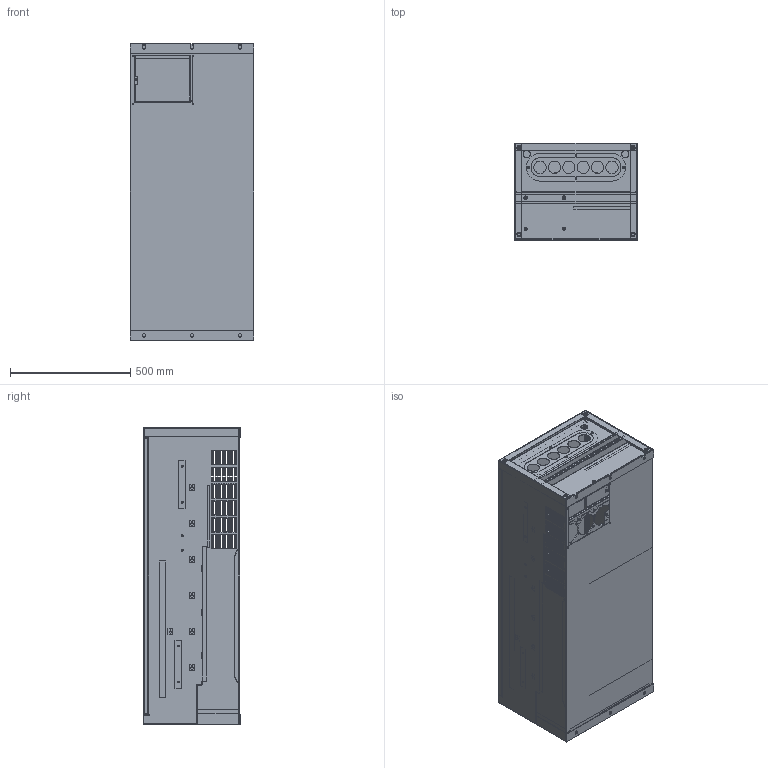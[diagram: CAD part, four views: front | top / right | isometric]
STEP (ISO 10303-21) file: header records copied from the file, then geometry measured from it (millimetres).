
FILE_DESCRIPTION (( 'STEP AP214' ), '1' );
FILE_NAME ('ﾂ-220ﾊ-ﾍ200ﾊ-380-D-0; ﾂ-ﾍ220ﾊ-380-D-0; B-250K-380-D-0.STEP', '2022-06-04T08:40:38', ( '' ), ( '' ), 'SwSTEP 2.0', 'SolidWorks 2018', '' );
FILE_SCHEMA (( 'AUTOMOTIVE_DESIGN' ));
Length unit declared in the file: millimetre
Products named in the file (66): E180-018-305_3___ _____________ _____________^E180-018-305_ASM_3_E102-200-302_ASM_E102-200-201_ASM_OptiCor ﾂ-220ﾊ-ﾍ200ﾊ-380-D-0-0; OptiCor ﾂ-ﾍ220ﾊ-380-D-0-0; OptiCor B-250K-380-D-0-0(2)_ﾂ-220~; S-M5-1_1___ _____________ _____________^E102-200-310_ASM_OptiCor ﾂ-220ﾊ-ﾍ200ﾊ-380-D-0-0; OptiCor ﾂ-ﾍ220ﾊ-380-D-0-0; OptiCor B-250K-380-D-0-0(2)_ﾂ-220ﾊ-ﾍ200ﾊ-380-D-0; ﾂ-ﾍ220ﾊ-380-D-0; B-250K-~; E102-200-307___ _____________ _____________^E102-200-307_ASM_E102-200-201_ASM_OptiCor ﾂ-220ﾊ-ﾍ200ﾊ-380-D-0-0; OptiCor ﾂ-ﾍ220ﾊ-380-D-0-0; OptiCor B-250K-380-D-0-0(2)_ﾂ-220ﾊ-ﾍ200ﾊ-380-D-0; ﾂ-ﾍ2~; E102-200-201_ASM^OptiCor ﾂ-220ﾊ-ﾍ200ﾊ-380-D-0-0; OptiCor ﾂ-ﾍ220ﾊ-380-D-0-0; OptiCor B-250K-380-D-0-0(2)_ﾂ-220ﾊ-ﾍ200ﾊ-380-D-0; ﾂ-ﾍ220ﾊ-380-D-0; B-250K-380-D-0; E102-200-310___ _____________ _____________^E102-200-310_ASM_OptiCor ﾂ-220ﾊ-ﾍ200ﾊ-380-D-0-0; OptiCor ﾂ-ﾍ220ﾊ-380-D-0-0; OptiCor B-250K-380-D-0-0(2)_ﾂ-220ﾊ-ﾍ200ﾊ-380-D-0; ﾂ-ﾍ220ﾊ-380-D-0; B-2~; E102-200-306_ASM^E102-200-201_ASM_OptiCor ﾂ-220ﾊ-ﾍ200ﾊ-380-D-0-0; OptiCor ﾂ-ﾍ220ﾊ-380-D-0-0; OptiCor B-250K-380-D-0-0(2)_ﾂ-220ﾊ-ﾍ200ﾊ-380-D-0; ﾂ-ﾍ220ﾊ-380-D-0; B-250K-380-D-0; E102-200-314___ _____________ _____________^E102-200-201_ASM_OptiCor ﾂ-220ﾊ-ﾍ200ﾊ-380-D-0-0; OptiCor ﾂ-ﾍ220ﾊ-380-D-0-0; OptiCor B-250K-380-D-0-0(2)_ﾂ-220ﾊ-ﾍ200ﾊ-380-D-0; ﾂ-ﾍ220ﾊ-380-D-0; B-2~; ﾂ-220ﾊ-ﾍ200ﾊ-380-D-0; ﾂ-ﾍ220ﾊ-380-D-0; B-250K-380-D-0; E102-200-318_ASM^OptiCor ﾂ-220ﾊ-ﾍ200ﾊ-380-D-0-0; OptiCor ﾂ-ﾍ220ﾊ-380-D-0-0; OptiCor B-250K-380-D-0-0(2)_ﾂ-220ﾊ-ﾍ200ﾊ-380-D-0; ﾂ-ﾍ220ﾊ-380-D-0; B-250K-380-D-0; S-M5-2___ _____________ _____________^E102-200-306_ASM_E102-200-201_ASM_OptiCor ﾂ-220ﾊ-ﾍ200ﾊ-380-D-0-0; OptiCor ﾂ-ﾍ220ﾊ-380-D-0-0; OptiCor B-250K-380-D-0-0(2)_ﾂ-220ﾊ-ﾍ200ﾊ-380-D-0; ﾂ-ﾍ220ﾊ-3~; E102-200-309___ _____________ _____________^E102-200-201_ASM_OptiCor ﾂ-220ﾊ-ﾍ200ﾊ-380-D-0-0; OptiCor ﾂ-ﾍ220ﾊ-380-D-0-0; OptiCor B-250K-380-D-0-0(2)_ﾂ-220ﾊ-ﾍ200ﾊ-380-D-0; ﾂ-ﾍ220ﾊ-380-D-0; B-2~; S-M4-1_4___ _____________ _____________^E102-200-318_ASM_OptiCor ﾂ-220ﾊ-ﾍ200ﾊ-380-D-0-0; OptiCor ﾂ-ﾍ220ﾊ-380-D-0-0; OptiCor B-250K-380-D-0-0(2)_ﾂ-220ﾊ-ﾍ200ﾊ-380-D-0; ﾂ-ﾍ220ﾊ-380-D-0; B-250K-~; E102-200-306___ _____________ _____________^E102-200-306_ASM_E102-200-201_ASM_OptiCor ﾂ-220ﾊ-ﾍ200ﾊ-380-D-0-0; OptiCor ﾂ-ﾍ220ﾊ-380-D-0-0; OptiCor B-250K-380-D-0-0(2)_ﾂ-220ﾊ-ﾍ200ﾊ-380-D-0; ﾂ-ﾍ~; E102-200-308___ _____________ _____________^E102-200-201_ASM_OptiCor ﾂ-220ﾊ-ﾍ200ﾊ-380-D-0-0; OptiCor ﾂ-ﾍ220ﾊ-380-D-0-0; OptiCor B-250K-380-D-0-0(2)_ﾂ-220ﾊ-ﾍ200ﾊ-380-D-0; ﾂ-ﾍ220ﾊ-380-D-0; B-2~; E102-200-318___ _____________ _____________^E102-200-318_ASM_OptiCor ﾂ-220ﾊ-ﾍ200ﾊ-380-D-0-0; OptiCor ﾂ-ﾍ220ﾊ-380-D-0-0; OptiCor B-250K-380-D-0-0(2)_ﾂ-220ﾊ-ﾍ200ﾊ-380-D-0; ﾂ-ﾍ220ﾊ-380-D-0; B-2~; E102-200-305_ASM^E102-200-201_ASM_OptiCor ﾂ-220ﾊ-ﾍ200ﾊ-380-D-0-0; OptiCor ﾂ-ﾍ220ﾊ-380-D-0-0; OptiCor B-250K-380-D-0-0(2)_ﾂ-220ﾊ-ﾍ200ﾊ-380-D-0; ﾂ-ﾍ220ﾊ-380-D-0; B-250K-380-D-0; E102-200-304___ _____________ _____________^E102-200-201_ASM_OptiCor ﾂ-220ﾊ-ﾍ200ﾊ-380-D-0-0; OptiCor ﾂ-ﾍ220ﾊ-380-D-0-0; OptiCor B-250K-380-D-0-0(2)_ﾂ-220ﾊ-ﾍ200ﾊ-380-D-0; ﾂ-ﾍ220ﾊ-380-D-0; B-2~; E102-200-317_ASM^OptiCor ﾂ-220ﾊ-ﾍ200ﾊ-380-D-0-0; OptiCor ﾂ-ﾍ220ﾊ-380-D-0-0; OptiCor B-250K-380-D-0-0(2)_ﾂ-220ﾊ-ﾍ200ﾊ-380-D-0; ﾂ-ﾍ220ﾊ-380-D-0; B-250K-380-D-0; E102-200-305___ _____________ _____________^E102-200-305_ASM_E102-200-201_ASM_OptiCor ﾂ-220ﾊ-ﾍ200ﾊ-380-D-0-0; OptiCor ﾂ-ﾍ220ﾊ-380-D-0-0; OptiCor B-250K-380-D-0-0(2)_ﾂ-220ﾊ-ﾍ200ﾊ-380-D-0; ﾂ-ﾍ~; E102-200-301___ _____________ _____________^E102-200-201_ASM_OptiCor ﾂ-220ﾊ-ﾍ200ﾊ-380-D-0-0; OptiCor ﾂ-ﾍ220ﾊ-380-D-0-0; OptiCor B-250K-380-D-0-0(2)_ﾂ-220ﾊ-ﾍ200ﾊ-380-D-0; ﾂ-ﾍ220ﾊ-380-D-0; B-2~; E102-200-317___ _____________ _____________^E102-200-317_ASM_OptiCor ﾂ-220ﾊ-ﾍ200ﾊ-380-D-0-0; OptiCor ﾂ-ﾍ220ﾊ-380-D-0-0; OptiCor B-250K-380-D-0-0(2)_ﾂ-220ﾊ-ﾍ200ﾊ-380-D-0; ﾂ-ﾍ220ﾊ-380-D-0; B-250K~; E180-018-305_ASM_3^E102-200-305_ASM_E102-200-201_ASM_OptiCor ﾂ-220ﾊ-ﾍ200ﾊ-380-D-0-0; OptiCor ﾂ-ﾍ220ﾊ-380-D-0-0; OptiCor B-250K-380-D-0-0(2)_ﾂ-220ﾊ-ﾍ200ﾊ-380-D-0; ﾂ-ﾍ220ﾊ-380-D-0; B-250K-380-~; E102-200-313_ASM^E102-200-201_ASM_OptiCor ﾂ-220ﾊ-ﾍ200ﾊ-380-D-0-0; OptiCor ﾂ-ﾍ220ﾊ-380-D-0-0; OptiCor B-250K-380-D-0-0(2)_ﾂ-220ﾊ-ﾍ200ﾊ-380-D-0; ﾂ-ﾍ220ﾊ-380-D-0; B-250K-380-D-0; E102-200-323_ASM^OptiCor ﾂ-220ﾊ-ﾍ200ﾊ-380-D-0-0; OptiCor ﾂ-ﾍ220ﾊ-380-D-0-0; OptiCor B-250K-380-D-0-0(2)_ﾂ-220ﾊ-ﾍ200ﾊ-380-D-0; ﾂ-ﾍ220ﾊ-380-D-0; B-250K-380-D-0; E180-018-305_3___ _____________ _____________^E180-018-305_ASM_3_E102-200-305_ASM_E102-200-201_ASM_OptiCor ﾂ-220ﾊ-ﾍ200ﾊ-380-D-0-0; OptiCor ﾂ-ﾍ220ﾊ-380-D-0-0; OptiCor B-250K-380-D-0-0(2)_ﾂ-22~; S-M5-1_1___ _____________ _____________^E102-200-313_ASM_E102-200-201_ASM_OptiCor ﾂ-220ﾊ-ﾍ200ﾊ-380-D-0-0; OptiCor ﾂ-ﾍ220ﾊ-380-D-0-0; OptiCor B-250K-380-D-0-0(2)_ﾂ-220ﾊ-ﾍ200ﾊ-380-D-0; ﾂ-ﾍ220ﾊ~; E102-200-323___ _____________ _____________^E102-200-323_ASM_OptiCor ﾂ-220ﾊ-ﾍ200ﾊ-380-D-0-0; OptiCor ﾂ-ﾍ220ﾊ-380-D-0-0; OptiCor B-250K-380-D-0-0(2)_ﾂ-220ﾊ-ﾍ200ﾊ-380-D-0; ﾂ-ﾍ220ﾊ-380-D-0; B-25~; E102-200-303_ASM^E102-200-201_ASM_OptiCor ﾂ-220ﾊ-ﾍ200ﾊ-380-D-0-0; OptiCor ﾂ-ﾍ220ﾊ-380-D-0-0; OptiCor B-250K-380-D-0-0(2)_ﾂ-220ﾊ-ﾍ200ﾊ-380-D-0; ﾂ-ﾍ220ﾊ-380-D-0; B-250K-380-D-0; E102-200-313___ _____________ _____________^E102-200-313_ASM_E102-200-201_ASM_OptiCor ﾂ-220ﾊ-ﾍ200ﾊ-380-D-0-0; OptiCor ﾂ-ﾍ220ﾊ-380-D-0-0; OptiCor B-250K-380-D-0-0(2)_ﾂ-220ﾊ-ﾍ200ﾊ-380-D-0; ﾂ-ﾍ~; E102-200-325_ASM^OptiCor ﾂ-220ﾊ-ﾍ200ﾊ-380-D-0-0; OptiCor ﾂ-ﾍ220ﾊ-380-D-0-0; OptiCor B-250K-380-D-0-0(2)_ﾂ-220ﾊ-ﾍ200ﾊ-380-D-0; ﾂ-ﾍ220ﾊ-380-D-0; B-250K-380-D-0; M12_GB13681_1___ _____________ _____________^E102-200-303_ASM_E102-200-201_ASM_OptiCor ﾂ-220ﾊ-ﾍ200ﾊ-380-D-0-0; OptiCor ﾂ-ﾍ220ﾊ-380-D-0-0; OptiCor B-250K-380-D-0-0(2)_ﾂ-220ﾊ-ﾍ200ﾊ-380-D-0; ﾂ-~; E180-018-305_ASM_3^E102-200-201_ASM_OptiCor ﾂ-220ﾊ-ﾍ200ﾊ-380-D-0-0; OptiCor ﾂ-ﾍ220ﾊ-380-D-0-0; OptiCor B-250K-380-D-0-0(2)_ﾂ-220ﾊ-ﾍ200ﾊ-380-D-0; ﾂ-ﾍ220ﾊ-380-D-0; B-250K-380-D-0; MEJIAO_ZUO___ _____________ _____________^E102-200-325_ASM_OptiCor ﾂ-220ﾊ-ﾍ200ﾊ-380-D-0-0; OptiCor ﾂ-ﾍ220ﾊ-380-D-0-0; OptiCor B-250K-380-D-0-0(2)_ﾂ-220ﾊ-ﾍ200ﾊ-380-D-0; ﾂ-ﾍ220ﾊ-380-D-0; B-250~; S-M8-1_1___ _____________ _____________^E102-200-303_ASM_E102-200-201_ASM_OptiCor ﾂ-220ﾊ-ﾍ200ﾊ-380-D-0-0; OptiCor ﾂ-ﾍ220ﾊ-380-D-0-0; OptiCor B-250K-380-D-0-0(2)_ﾂ-220ﾊ-ﾍ200ﾊ-380-D-0; ﾂ-ﾍ220ﾊ~; E180-018-305_3___ _____________ _____________^E180-018-305_ASM_3_E102-200-201_ASM_OptiCor ﾂ-220ﾊ-ﾍ200ﾊ-380-D-0-0; OptiCor ﾂ-ﾍ220ﾊ-380-D-0-0; OptiCor B-250K-380-D-0-0(2)_ﾂ-220ﾊ-ﾍ200ﾊ-380-D-0;~; E180-250-325___ _____________ _____________^E102-200-325_ASM_OptiCor ﾂ-220ﾊ-ﾍ200ﾊ-380-D-0-0; OptiCor ﾂ-ﾍ220ﾊ-380-D-0-0; OptiCor B-250K-380-D-0-0(2)_ﾂ-220ﾊ-ﾍ200ﾊ-380-D-0; ﾂ-ﾍ220ﾊ-380-D-0; B-2~; S-M4-1_4___ _____________ _____________^E102-200-303_ASM_E102-200-201_ASM_OptiCor ﾂ-220ﾊ-ﾍ200ﾊ-380-D-0-0; OptiCor ﾂ-ﾍ220ﾊ-380-D-0-0; OptiCor B-250K-380-D-0-0(2)_ﾂ-220ﾊ-ﾍ200ﾊ-380-D-0; ﾂ-ﾍ220ﾊ~; E102-200-312_ASM^E102-200-201_ASM_OptiCor ﾂ-220ﾊ-ﾍ200ﾊ-380-D-0-0; OptiCor ﾂ-ﾍ220ﾊ-380-D-0-0; OptiCor B-250K-380-D-0-0(2)_ﾂ-220ﾊ-ﾍ200ﾊ-380-D-0; ﾂ-ﾍ220ﾊ-380-D-0; B-250K-380-D-0; E102-200-325___ _____________ _____________^E102-200-325_ASM_OptiCor ﾂ-220ﾊ-ﾍ200ﾊ-380-D-0-0; OptiCor ﾂ-ﾍ220ﾊ-380-D-0-0; OptiCor B-250K-380-D-0-0(2)_ﾂ-220ﾊ-ﾍ200ﾊ-380-D-0; ﾂ-ﾍ220ﾊ-380-D-0; B-2~; E102-200-303___ _____________ _____________^E102-200-303_ASM_E102-200-201_ASM_OptiCor ﾂ-220ﾊ-ﾍ200ﾊ-380-D-0-0; OptiCor ﾂ-ﾍ220ﾊ-380-D-0-0; OptiCor B-250K-380-D-0-0(2)_ﾂ-220ﾊ-ﾍ200ﾊ-380-D-0; ﾂ-ﾍ~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
Assembly tree (157 placements, depth 6):
  ﾂ-220ﾊ-ﾍ200ﾊ-380-D-0; ﾂ-ﾍ220ﾊ-380-D-0; B-250K-380-D-0
    OptiCor ﾂ-220ﾊ-ﾍ200ﾊ-380-D-0-0; OptiCor ﾂ-ﾍ220ﾊ-380-D-0-0; OptiCor B-250K-380-D-0-0(2)^ﾂ-220ﾊ-ﾍ200ﾊ-380-D-0; ﾂ-ﾍ220ﾊ-380-D-0; B-250K-380-D-0
      E102-200-201_ASM^OptiCor ﾂ-220ﾊ-ﾍ200ﾊ-380-D-0-0; OptiCor ﾂ-ﾍ220ﾊ-380-D-0-0; OptiCor B-250K-380-D-0-0(2)_ﾂ-220ﾊ-ﾍ200ﾊ-380-D-0; ﾂ-ﾍ220ﾊ-380-D-0; B-250K-380-D-0
        E102-200-302_ASM^E102-200-201_ASM_OptiCor ﾂ-220ﾊ-ﾍ200ﾊ-380-D-0-0; OptiCor ﾂ-ﾍ220ﾊ-380-D-0-0; OptiCor B-250K-380-D-0-0(2)_ﾂ-220ﾊ-ﾍ200ﾊ-380-D-0; ﾂ-ﾍ220ﾊ-380-D-0; B-250K-380-D-0
          E180-018-305_ASM_3^E102-200-302_ASM_E102-200-201_ASM_OptiCor ﾂ-220ﾊ-ﾍ200ﾊ-380-D-0-0; OptiCor ﾂ-ﾍ220ﾊ-380-D-0-0; OptiCor B-250K-380-D-0-0(2)_ﾂ-220ﾊ-ﾍ200ﾊ-380-D-0; ﾂ-ﾍ220ﾊ-380-D-0; B-250K-380-D~  x7
            E180-018-305_3___ _____________ _____________^E180-018-305_ASM_3_E102-200-302_ASM_E102-200-201_ASM_OptiCor ﾂ-220ﾊ-ﾍ200ﾊ-380-D-0-0; OptiCor ﾂ-ﾍ220ﾊ-380-D-0-0; OptiCor B-250K-380-D-0-0(2)_ﾂ-220~
          E102-200-302___ _____________ _____________^E102-200-302_ASM_E102-200-201_ASM_OptiCor ﾂ-220ﾊ-ﾍ200ﾊ-380-D-0-0; OptiCor ﾂ-ﾍ220ﾊ-380-D-0-0; OptiCor B-250K-380-D-0-0(2)_ﾂ-220ﾊ-ﾍ200ﾊ-380-D-0; ﾂ-ﾍ2~
          BSO-M3-12_1___ _____________ _____________^E102-200-302_ASM_E102-200-201_ASM_OptiCor ﾂ-220ﾊ-ﾍ200ﾊ-380-D-0-0; OptiCor ﾂ-ﾍ220ﾊ-380-D-0-0; OptiCor B-250K-380-D-0-0(2)_ﾂ-220ﾊ-ﾍ200ﾊ-380-D-0; ﾂ-ﾍ22~  x4
          S-M5-1_1___ _____________ _____________^E102-200-302_ASM_E102-200-201_ASM_OptiCor ﾂ-220ﾊ-ﾍ200ﾊ-380-D-0-0; OptiCor ﾂ-ﾍ220ﾊ-380-D-0-0; OptiCor B-250K-380-D-0-0(2)_ﾂ-220ﾊ-ﾍ200ﾊ-380-D-0; ﾂ-ﾍ220ﾊ-~  x4
          S-M4-1_4___ _____________ _____________^E102-200-302_ASM_E102-200-201_ASM_OptiCor ﾂ-220ﾊ-ﾍ200ﾊ-380-D-0-0; OptiCor ﾂ-ﾍ220ﾊ-380-D-0-0; OptiCor B-250K-380-D-0-0(2)_ﾂ-220ﾊ-ﾍ200ﾊ-380-D-0; ﾂ-ﾍ220ﾊ-~  x3
        E102-200-303_ASM^E102-200-201_ASM_OptiCor ﾂ-220ﾊ-ﾍ200ﾊ-380-D-0-0; OptiCor ﾂ-ﾍ220ﾊ-380-D-0-0; OptiCor B-250K-380-D-0-0(2)_ﾂ-220ﾊ-ﾍ200ﾊ-380-D-0; ﾂ-ﾍ220ﾊ-380-D-0; B-250K-380-D-0
          E102-200-303___ _____________ _____________^E102-200-303_ASM_E102-200-201_ASM_OptiCor ﾂ-220ﾊ-ﾍ200ﾊ-380-D-0-0; OptiCor ﾂ-ﾍ220ﾊ-380-D-0-0; OptiCor B-250K-380-D-0-0(2)_ﾂ-220ﾊ-ﾍ200ﾊ-380-D-0; ﾂ-ﾍ~
          S-M4-1_4___ _____________ _____________^E102-200-303_ASM_E102-200-201_ASM_OptiCor ﾂ-220ﾊ-ﾍ200ﾊ-380-D-0-0; OptiCor ﾂ-ﾍ220ﾊ-380-D-0-0; OptiCor B-250K-380-D-0-0(2)_ﾂ-220ﾊ-ﾍ200ﾊ-380-D-0; ﾂ-ﾍ220ﾊ~  x4
          S-M8-1_1___ _____________ _____________^E102-200-303_ASM_E102-200-201_ASM_OptiCor ﾂ-220ﾊ-ﾍ200ﾊ-380-D-0-0; OptiCor ﾂ-ﾍ220ﾊ-380-D-0-0; OptiCor B-250K-380-D-0-0(2)_ﾂ-220ﾊ-ﾍ200ﾊ-380-D-0; ﾂ-ﾍ220ﾊ~  x4
          M12_GB13681_1___ _____________ _____________^E102-200-303_ASM_E102-200-201_ASM_OptiCor ﾂ-220ﾊ-ﾍ200ﾊ-380-D-0-0; OptiCor ﾂ-ﾍ220ﾊ-380-D-0-0; OptiCor B-250K-380-D-0-0(2)_ﾂ-220ﾊ-ﾍ200ﾊ-380-D-0; ﾂ-~  x4
        E102-200-305_ASM^E102-200-201_ASM_OptiCor ﾂ-220ﾊ-ﾍ200ﾊ-380-D-0-0; OptiCor ﾂ-ﾍ220ﾊ-380-D-0-0; OptiCor B-250K-380-D-0-0(2)_ﾂ-220ﾊ-ﾍ200ﾊ-380-D-0; ﾂ-ﾍ220ﾊ-380-D-0; B-250K-380-D-0
          E180-018-305_ASM_3^E102-200-305_ASM_E102-200-201_ASM_OptiCor ﾂ-220ﾊ-ﾍ200ﾊ-380-D-0-0; OptiCor ﾂ-ﾍ220ﾊ-380-D-0-0; OptiCor B-250K-380-D-0-0(2)_ﾂ-220ﾊ-ﾍ200ﾊ-380-D-0; ﾂ-ﾍ220ﾊ-380-D-0; B-250K-380-~  x6
            E180-018-305_3___ _____________ _____________^E180-018-305_ASM_3_E102-200-305_ASM_E102-200-201_ASM_OptiCor ﾂ-220ﾊ-ﾍ200ﾊ-380-D-0-0; OptiCor ﾂ-ﾍ220ﾊ-380-D-0-0; OptiCor B-250K-380-D-0-0(2)_ﾂ-22~
          E102-200-305___ _____________ _____________^E102-200-305_ASM_E102-200-201_ASM_OptiCor ﾂ-220ﾊ-ﾍ200ﾊ-380-D-0-0; OptiCor ﾂ-ﾍ220ﾊ-380-D-0-0; OptiCor B-250K-380-D-0-0(2)_ﾂ-220ﾊ-ﾍ200ﾊ-380-D-0; ﾂ-ﾍ~
        E102-200-306_ASM^E102-200-201_ASM_OptiCor ﾂ-220ﾊ-ﾍ200ﾊ-380-D-0-0; OptiCor ﾂ-ﾍ220ﾊ-380-D-0-0; OptiCor B-250K-380-D-0-0(2)_ﾂ-220ﾊ-ﾍ200ﾊ-380-D-0; ﾂ-ﾍ220ﾊ-380-D-0; B-250K-380-D-0
          E102-200-306___ _____________ _____________^E102-200-306_ASM_E102-200-201_ASM_OptiCor ﾂ-220ﾊ-ﾍ200ﾊ-380-D-0-0; OptiCor ﾂ-ﾍ220ﾊ-380-D-0-0; OptiCor B-250K-380-D-0-0(2)_ﾂ-220ﾊ-ﾍ200ﾊ-380-D-0; ﾂ-ﾍ~
          S-M5-2___ _____________ _____________^E102-200-306_ASM_E102-200-201_ASM_OptiCor ﾂ-220ﾊ-ﾍ200ﾊ-380-D-0-0; OptiCor ﾂ-ﾍ220ﾊ-380-D-0-0; OptiCor B-250K-380-D-0-0(2)_ﾂ-220ﾊ-ﾍ200ﾊ-380-D-0; ﾂ-ﾍ220ﾊ-3~  x8
        E102-200-307_ASM^E102-200-201_ASM_OptiCor ﾂ-220ﾊ-ﾍ200ﾊ-380-D-0-0; OptiCor ﾂ-ﾍ220ﾊ-380-D-0-0; OptiCor B-250K-380-D-0-0(2)_ﾂ-220ﾊ-ﾍ200ﾊ-380-D-0; ﾂ-ﾍ220ﾊ-380-D-0; B-250K-380-D-0
          E102-200-307___ _____________ _____________^E102-200-307_ASM_E102-200-201_ASM_OptiCor ﾂ-220ﾊ-ﾍ200ﾊ-380-D-0-0; OptiCor ﾂ-ﾍ220ﾊ-380-D-0-0; OptiCor B-250K-380-D-0-0(2)_ﾂ-220ﾊ-ﾍ200ﾊ-380-D-0; ﾂ-ﾍ2~
          S-M5-1_1___ _____________ _____________^E102-200-307_ASM_E102-200-201_ASM_OptiCor ﾂ-220ﾊ-ﾍ200ﾊ-380-D-0-0; OptiCor ﾂ-ﾍ220ﾊ-380-D-0-0; OptiCor B-250K-380-D-0-0(2)_ﾂ-220ﾊ-ﾍ200ﾊ-380-D-0; ﾂ-ﾍ220ﾊ-~  x2
        E102-200-310_ASM^E102-200-201_ASM_OptiCor ﾂ-220ﾊ-ﾍ200ﾊ-380-D-0-0; OptiCor ﾂ-ﾍ220ﾊ-380-D-0-0; OptiCor B-250K-380-D-0-0(2)_ﾂ-220ﾊ-ﾍ200ﾊ-380-D-0; ﾂ-ﾍ220ﾊ-380-D-0; B-250K-380-D-0  x2
          E102-200-310___ _____________ _____________^E102-200-310_ASM_E102-200-201_ASM_OptiCor ﾂ-220ﾊ-ﾍ200ﾊ-380-D-0-0; OptiCor ﾂ-ﾍ220ﾊ-380-D-0-0; OptiCor B-250K-380-D-0-0(2)_ﾂ-220ﾊ-ﾍ200ﾊ-380-D-0; ﾂ-ﾍ2~
          S-M5-1_1___ _____________ _____________^E102-200-310_ASM_E102-200-201_ASM_OptiCor ﾂ-220ﾊ-ﾍ200ﾊ-380-D-0-0; OptiCor ﾂ-ﾍ220ﾊ-380-D-0-0; OptiCor B-250K-380-D-0-0(2)_ﾂ-220ﾊ-ﾍ200ﾊ-380-D-0; ﾂ-ﾍ220ﾊ-~
        E102-200-312_ASM^E102-200-201_ASM_OptiCor ﾂ-220ﾊ-ﾍ200ﾊ-380-D-0-0; OptiCor ﾂ-ﾍ220ﾊ-380-D-0-0; OptiCor B-250K-380-D-0-0(2)_ﾂ-220ﾊ-ﾍ200ﾊ-380-D-0; ﾂ-ﾍ220ﾊ-380-D-0; B-250K-380-D-0  x2
          E102-200-312___ _____________ _____________^E102-200-312_ASM_E102-200-201_ASM_OptiCor ﾂ-220ﾊ-ﾍ200ﾊ-380-D-0-0; OptiCor ﾂ-ﾍ220ﾊ-380-D-0-0; OptiCor B-250K-380-D-0-0(2)_ﾂ-220ﾊ-ﾍ200ﾊ-380-D-0; ﾂ-ﾍ220ﾊ~
          S-M5-1_1___ _____________ _____________^E102-200-312_ASM_E102-200-201_ASM_OptiCor ﾂ-220ﾊ-ﾍ200ﾊ-380-D-0-0; OptiCor ﾂ-ﾍ220ﾊ-380-D-0-0; OptiCor B-250K-380-D-0-0(2)_ﾂ-220ﾊ-ﾍ200ﾊ-380-D-0; ﾂ-ﾍ220ﾊ-380~
        E180-018-305_ASM_3^E102-200-201_ASM_OptiCor ﾂ-220ﾊ-ﾍ200ﾊ-380-D-0-0; OptiCor ﾂ-ﾍ220ﾊ-380-D-0-0; OptiCor B-250K-380-D-0-0(2)_ﾂ-220ﾊ-ﾍ200ﾊ-380-D-0; ﾂ-ﾍ220ﾊ-380-D-0; B-250K-380-D-0  x10
          E180-018-305_3___ _____________ _____________^E180-018-305_ASM_3_E102-200-201_ASM_OptiCor ﾂ-220ﾊ-ﾍ200ﾊ-380-D-0-0; OptiCor ﾂ-ﾍ220ﾊ-380-D-0-0; OptiCor B-250K-380-D-0-0(2)_ﾂ-220ﾊ-ﾍ200ﾊ-380-D-0;~
        E102-200-313_ASM^E102-200-201_ASM_OptiCor ﾂ-220ﾊ-ﾍ200ﾊ-380-D-0-0; OptiCor ﾂ-ﾍ220ﾊ-380-D-0-0; OptiCor B-250K-380-D-0-0(2)_ﾂ-220ﾊ-ﾍ200ﾊ-380-D-0; ﾂ-ﾍ220ﾊ-380-D-0; B-250K-380-D-0  x2
          E102-200-313___ _____________ _____________^E102-200-313_ASM_E102-200-201_ASM_OptiCor ﾂ-220ﾊ-ﾍ200ﾊ-380-D-0-0; OptiCor ﾂ-ﾍ220ﾊ-380-D-0-0; OptiCor B-250K-380-D-0-0(2)_ﾂ-220ﾊ-ﾍ200ﾊ-380-D-0; ﾂ-ﾍ~
          S-M5-1_1___ _____________ _____________^E102-200-313_ASM_E102-200-201_ASM_OptiCor ﾂ-220ﾊ-ﾍ200ﾊ-380-D-0-0; OptiCor ﾂ-ﾍ220ﾊ-380-D-0-0; OptiCor B-250K-380-D-0-0(2)_ﾂ-220ﾊ-ﾍ200ﾊ-380-D-0; ﾂ-ﾍ220ﾊ~
        E102-200-301___ _____________ _____________^E102-200-201_ASM_OptiCor ﾂ-220ﾊ-ﾍ200ﾊ-380-D-0-0; OptiCor ﾂ-ﾍ220ﾊ-380-D-0-0; OptiCor B-250K-380-D-0-0(2)_ﾂ-220ﾊ-ﾍ200ﾊ-380-D-0; ﾂ-ﾍ220ﾊ-380-D-0; B-2~
        E102-200-304___ _____________ _____________^E102-200-201_ASM_OptiCor ﾂ-220ﾊ-ﾍ200ﾊ-380-D-0-0; OptiCor ﾂ-ﾍ220ﾊ-380-D-0-0; OptiCor B-250K-380-D-0-0(2)_ﾂ-220ﾊ-ﾍ200ﾊ-380-D-0; ﾂ-ﾍ220ﾊ-380-D-0; B-2~
        E102-200-308___ _____________ _____________^E102-200-201_ASM_OptiCor ﾂ-220ﾊ-ﾍ200ﾊ-380-D-0-0; OptiCor ﾂ-ﾍ220ﾊ-380-D-0-0; OptiCor B-250K-380-D-0-0(2)_ﾂ-220ﾊ-ﾍ200ﾊ-380-D-0; ﾂ-ﾍ220ﾊ-380-D-0; B-2~
        E102-200-309___ _____________ _____________^E102-200-201_ASM_OptiCor ﾂ-220ﾊ-ﾍ200ﾊ-380-D-0-0; OptiCor ﾂ-ﾍ220ﾊ-380-D-0-0; OptiCor B-250K-380-D-0-0(2)_ﾂ-220ﾊ-ﾍ200ﾊ-380-D-0; ﾂ-ﾍ220ﾊ-380-D-0; B-2~
        E102-200-314___ _____________ _____________^E102-200-201_ASM_OptiCor ﾂ-220ﾊ-ﾍ200ﾊ-380-D-0-0; OptiCor ﾂ-ﾍ220ﾊ-380-D-0-0; OptiCor B-250K-380-D-0-0(2)_ﾂ-220ﾊ-ﾍ200ﾊ-380-D-0; ﾂ-ﾍ220ﾊ-380-D-0; B-2~
      E102-200-315_ASM^OptiCor ﾂ-220ﾊ-ﾍ200ﾊ-380-D-0-0; OptiCor ﾂ-ﾍ220ﾊ-380-D-0-0; OptiCor B-250K-380-D-0-0(2)_ﾂ-220ﾊ-ﾍ200ﾊ-380-D-0; ﾂ-ﾍ220ﾊ-380-D-0; B-250K-380-D-0
        E102-200-315___ _____________ _____________^E102-200-315_ASM_OptiCor ﾂ-220ﾊ-ﾍ200ﾊ-380-D-0-0; OptiCor ﾂ-ﾍ220ﾊ-380-D-0-0; OptiCor B-250K-380-D-0-0(2)_ﾂ-220ﾊ-ﾍ200ﾊ-380-D-0; ﾂ-ﾍ220ﾊ-380-D-0; B-25~
      E102-200-316_ASM^OptiCor ﾂ-220ﾊ-ﾍ200ﾊ-380-D-0-0; OptiCor ﾂ-ﾍ220ﾊ-380-D-0-0; OptiCor B-250K-380-D-0-0(2)_ﾂ-220ﾊ-ﾍ200ﾊ-380-D-0; ﾂ-ﾍ220ﾊ-380-D-0; B-250K-380-D-0
        E102-200-316___ _____________ _____________^E102-200-316_ASM_OptiCor ﾂ-220ﾊ-ﾍ200ﾊ-380-D-0-0; OptiCor ﾂ-ﾍ220ﾊ-380-D-0-0; OptiCor B-250K-380-D-0-0(2)_ﾂ-220ﾊ-ﾍ200ﾊ-380-D-0; ﾂ-ﾍ220ﾊ-380-D-0; B-25~
        S-M5-1_1___ _____________ _____________^E102-200-316_ASM_OptiCor ﾂ-220ﾊ-ﾍ200ﾊ-380-D-0-0; OptiCor ﾂ-ﾍ220ﾊ-380-D-0-0; OptiCor B-250K-380-D-0-0(2)_ﾂ-220ﾊ-ﾍ200ﾊ-380-D-0; ﾂ-ﾍ220ﾊ-380-D-0; B-250K-3~  x4
      E102-200-325_ASM^OptiCor ﾂ-220ﾊ-ﾍ200ﾊ-380-D-0-0; OptiCor ﾂ-ﾍ220ﾊ-380-D-0-0; OptiCor B-250K-380-D-0-0(2)_ﾂ-220ﾊ-ﾍ200ﾊ-380-D-0; ﾂ-ﾍ220ﾊ-380-D-0; B-250K-380-D-0
        E180-018-305_ASM_3^E102-200-325_ASM_OptiCor ﾂ-220ﾊ-ﾍ200ﾊ-380-D-0-0; OptiCor ﾂ-ﾍ220ﾊ-380-D-0-0; OptiCor B-250K-380-D-0-0(2)_ﾂ-220ﾊ-ﾍ200ﾊ-380-D-0; ﾂ-ﾍ220ﾊ-380-D-0; B-250K-380-D-0
          E180-018-305_3___ _____________ _____________^E180-018-305_ASM_3_E102-200-325_ASM_OptiCor ﾂ-220ﾊ-ﾍ200ﾊ-380-D-0-0; OptiCor ﾂ-ﾍ220ﾊ-380-D-0-0; OptiCor B-250K-380-D-0-0(2)_ﾂ-220ﾊ-ﾍ200ﾊ-380-D-0;~
        E102-200-325___ _____________ _____________^E102-200-325_ASM_OptiCor ﾂ-220ﾊ-ﾍ200ﾊ-380-D-0-0; OptiCor ﾂ-ﾍ220ﾊ-380-D-0-0; OptiCor B-250K-380-D-0-0(2)_ﾂ-220ﾊ-ﾍ200ﾊ-380-D-0; ﾂ-ﾍ220ﾊ-380-D-0; B-2~
        E180-250-325___ _____________ _____________^E102-200-325_ASM_OptiCor ﾂ-220ﾊ-ﾍ200ﾊ-380-D-0-0; OptiCor ﾂ-ﾍ220ﾊ-380-D-0-0; OptiCor B-250K-380-D-0-0(2)_ﾂ-220ﾊ-ﾍ200ﾊ-380-D-0; ﾂ-ﾍ220ﾊ-380-D-0; B-2~
        MEJIAO_ZUO___ _____________ _____________^E102-200-325_ASM_OptiCor ﾂ-220ﾊ-ﾍ200ﾊ-380-D-0-0; OptiCor ﾂ-ﾍ220ﾊ-380-D-0-0; OptiCor B-250K-380-D-0-0(2)_ﾂ-220ﾊ-ﾍ200ﾊ-380-D-0; ﾂ-ﾍ220ﾊ-380-D-0; B-250~
      E102-200-323_ASM^OptiCor ﾂ-220ﾊ-ﾍ200ﾊ-380-D-0-0; OptiCor ﾂ-ﾍ220ﾊ-380-D-0-0; OptiCor B-250K-380-D-0-0(2)_ﾂ-220ﾊ-ﾍ200ﾊ-380-D-0; ﾂ-ﾍ220ﾊ-380-D-0; B-250K-380-D-0
        E102-200-323___ _____________ _____________^E102-200-323_ASM_OptiCor ﾂ-220ﾊ-ﾍ200ﾊ-380-D-0-0; OptiCor ﾂ-ﾍ220ﾊ-380-D-0-0; OptiCor B-250K-380-D-0-0(2)_ﾂ-220ﾊ-ﾍ200ﾊ-380-D-0; ﾂ-ﾍ220ﾊ-380-D-0; B-25~
      E102-200-317_ASM^OptiCor ﾂ-220ﾊ-ﾍ200ﾊ-380-D-0-0; OptiCor ﾂ-ﾍ220ﾊ-380-D-0-0; OptiCor B-250K-380-D-0-0(2)_ﾂ-220ﾊ-ﾍ200ﾊ-380-D-0; ﾂ-ﾍ220ﾊ-380-D-0; B-250K-380-D-0
        E102-200-317___ _____________ _____________^E102-200-317_ASM_OptiCor ﾂ-220ﾊ-ﾍ200ﾊ-380-D-0-0; OptiCor ﾂ-ﾍ220ﾊ-380-D-0-0; OptiCor B-250K-380-D-0-0(2)_ﾂ-220ﾊ-ﾍ200ﾊ-380-D-0; ﾂ-ﾍ220ﾊ-380-D-0; B-250K~
      E102-200-318_ASM^OptiCor ﾂ-220ﾊ-ﾍ200ﾊ-380-D-0-0; OptiCor ﾂ-ﾍ220ﾊ-380-D-0-0; OptiCor B-250K-380-D-0-0(2)_ﾂ-220ﾊ-ﾍ200ﾊ-380-D-0; ﾂ-ﾍ220ﾊ-380-D-0; B-250K-380-D-0
        E102-200-318___ _____________ _____________^E102-200-318_ASM_OptiCor ﾂ-220ﾊ-ﾍ200ﾊ-380-D-0-0; OptiCor ﾂ-ﾍ220ﾊ-380-D-0-0; OptiCor B-250K-380-D-0-0(2)_ﾂ-220ﾊ-ﾍ200ﾊ-380-D-0; ﾂ-ﾍ220ﾊ-380-D-0; B-2~
        S-M4-1_4___ _____________ _____________^E102-200-318_ASM_OptiCor ﾂ-220ﾊ-ﾍ200ﾊ-380-D-0-0; OptiCor ﾂ-ﾍ220ﾊ-380-D-0-0; OptiCor B-250K-380-D-0-0(2)_ﾂ-220ﾊ-ﾍ200ﾊ-380-D-0; ﾂ-ﾍ220ﾊ-380-D-0; B-250K-~  x30
      E102-200-310_ASM^OptiCor ﾂ-220ﾊ-ﾍ200ﾊ-380-D-0-0; OptiCor ﾂ-ﾍ220ﾊ-380-D-0-0; OptiCor B-250K-380-D-0-0(2)_ﾂ-220ﾊ-ﾍ200ﾊ-380-D-0; ﾂ-ﾍ220ﾊ-380-D-0; B-250K-380-D-0  x2
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Bounding box: 514 x 404 x 1235 mm (x, y, z)
Volume: 5583332.2 mm3; surface area: 7386106.6 mm2
Topology: 144 solids, 158 shells, 3341 faces, 8580 edges, 5574 vertices
Faces by surface type: cylinder 1817, plane 1376, cone 122, bspline 26
Entity records: 76922 total; most frequent: CARTESIAN_POINT 22922, ORIENTED_EDGE 10810, DIRECTION 10278, EDGE_CURVE 5463, AXIS2_PLACEMENT_3D 3873, VERTEX_POINT 3570, EDGE_LOOP 2685, VECTOR 2532
